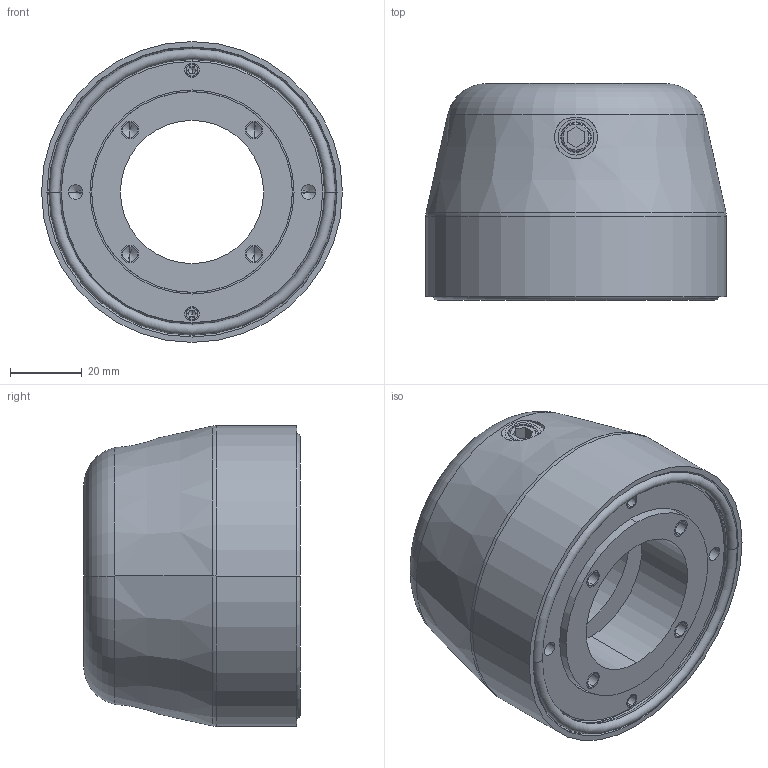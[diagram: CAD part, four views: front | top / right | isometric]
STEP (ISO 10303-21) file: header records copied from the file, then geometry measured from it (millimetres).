
FILE_DESCRIPTION((''),'2;1');
FILE_NAME('1013050100_ASM','2022-09-29T13:35:52',('Stephanie.Hoppe'),(''),'CREO PARAMETRIC BY PTC INC, 2018300','CREO PARAMETRIC BY PTC INC, 2018300','');
FILE_SCHEMA(('AUTOMOTIVE_DESIGN { 1 0 10303 214 1 1 1 1 }'));
Length unit declared in the file: millimetre
Products named in the file (11): 9503073000; 9263062000; 9502280000; 9503035000; 9411111000_EINB_AF0; 9502278000; 9263051000; 9231685000; 9263054000; 9231656000; 1013050100_ASM
Assembly tree (15 placements, depth 2):
  1013050100_ASM
    9503073000
    9263062000  x2
    9502280000  x2
    9503035000
    9411111000_EINB_AF0
    9502278000
    9263051000  x2
    9231685000  x2
    9263054000  x2
    9231656000
Bounding box: 84 x 60.5 x 84 mm (x, y, z)
Volume: 185414 mm3; surface area: 75645.5 mm2
Topology: 15 solids, 29 shells, 297 faces, 680 edges, 416 vertices
Faces by surface type: cylinder 118, plane 87, cone 52, torus 40
Entity records: 13291 total; most frequent: CARTESIAN_POINT 1510, DIRECTION 1452, ORIENTED_EDGE 968, PROPERTY_DEFINITION 708, REPRESENTATION 693, PROPERTY_DEFINITION_REPRESENTATION 693, AXIS2_PLACEMENT_3D 612, DESCRIPTIVE_REPRESENTATION_ITEM 588
